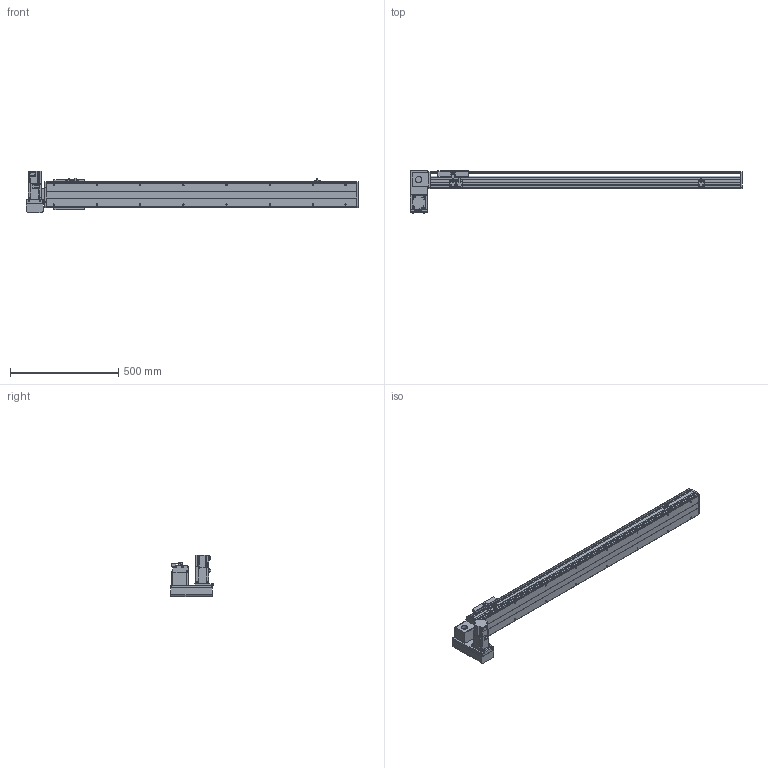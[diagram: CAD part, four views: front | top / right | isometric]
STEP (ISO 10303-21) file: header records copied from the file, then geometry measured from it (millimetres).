
FILE_DESCRIPTION( ( 'STEP AP214' ), '1' );
FILE_NAME( 'x:/temp/worker_27/temp/exporttempdir_6708_47_3jcC2/format_0/PBS120-P40-S1150-LD-T40-C1-N(0).stp', '2022-06-06T00:16:41', ( 'License CC BY-ND 4.0' ), ( 'CADENAS' ), ' ', 'PARTsolutions', ' ' );
FILE_SCHEMA( ( 'AUTOMOTIVE_DESIGN { 1 0 10303 214 1 1 1 1 }' ) );
Length unit declared in the file: millimetre
Products named in the file (7): PBS120-P40-S1150-LD-T40-C1-N(0); _PBS120-S1150()_body; _PBS120T-LD_motors; _T40-p1; _PBS120_sliser; _PBS120_plant; _PBS120_sensor
Assembly tree (8 placements, depth 2):
  PBS120-P40-S1150-LD-T40-C1-N(0)
    _PBS120-S1150()_body
    _PBS120T-LD_motors
    _T40-p1
    _PBS120_sliser
    _PBS120_plant
    _PBS120_sensor  x3
Bounding box: 1536 x 196 x 189.7 mm (x, y, z)
Volume: 6449538.8 mm3; surface area: 1271462.5 mm2
Topology: 8 solids, 8 shells, 828 faces, 2156 edges, 1387 vertices
Faces by surface type: plane 549, cylinder 229, cone 48, torus 2
Full cylindrical faces by diameter (mm): 2.459 x6, 3.242 x4, 4 x2, 4.134 x4, 4.5 x10, 4.917 x20, 5.5 x11, 6 x2, 6.6 x1, 7 x2, 8.5 x4, 9 x4, 12 x1, 14 x1, 30 x2, 40 x1, 50 x2
Entity records: 27324 total; most frequent: DIRECTION 3740, CARTESIAN_POINT 3677, ORIENTED_EDGE 3502, EDGE_CURVE 1751, AXIS2_PLACEMENT_3D 1256, LINE 1228, VECTOR 1228, VERTEX_POINT 1193
